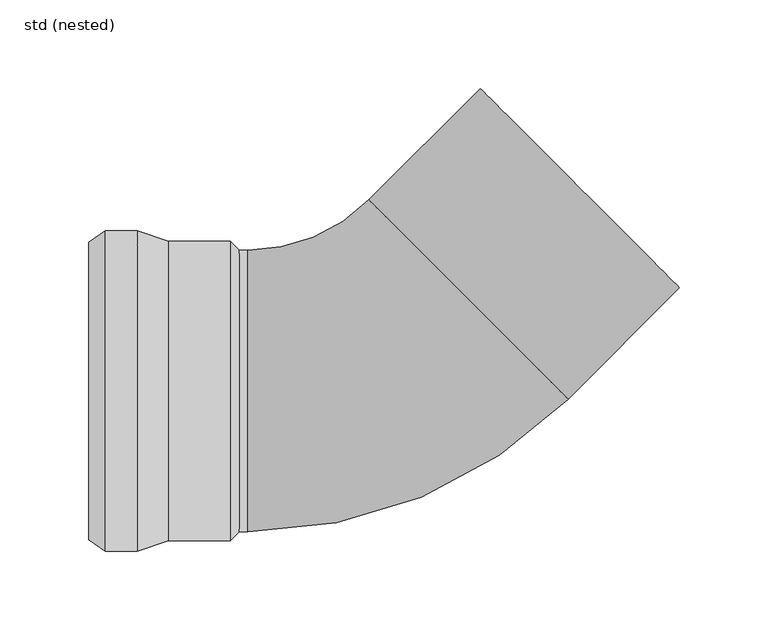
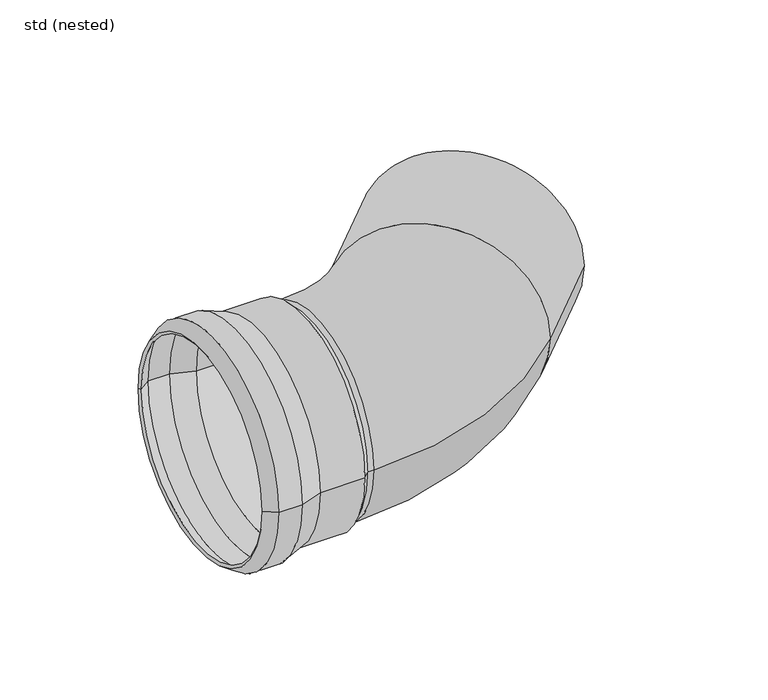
"""IFC4 building model written with IfcOpenShell, lengths in millimetres: pipe fitting geometry, ZZZ_do not use_PIF_ST_UN_GM-X pipe bend_ACO : std (nested)."""

from ifc_helpers import new_model, si_unit, point, frame, origin, place, context, project, spatial, polyline, circle_curve, ellipse_curve, trimmed, source, transform, mapped, element, save
from ifc_brep_helpers import plane_surface, cylinder_surface, revolved_surface, advanced_brep


def std_nested_fe48a173(model_context):
    return source(origin(), model_context, "Body", "AdvancedBrep", [
        advanced_brep(
        [(-135.5, 90.5, 0.0), (-135.5, -90.5, 0.0), (-153.5, -90.5, 0.0), (-153.5, 90.5, 0.0), (-118.0, 84.5, 0.0), (-118.0, -84.5, 0.0), (-163.0, -84.0, 0.0), (-163.0, 84.0, 0.0), (-83.0, 84.5, 0.0), (-83.0, -84.5, 0.0), (-78.0, 79.5, 0.0), (-78.0, -79.5, 0.0), (-83.0, 79.5, 0.0), (-83.0, -79.5, 0.0), (-118.4166667, 82.0, 0.0), (-118.4166667, -82.0, 0.0), (-83.0, -82.0, 0.0), (-83.0, 82.0, 0.0), (-135.9166667, 88.0, 0.0), (-135.9166667, -88.0, 0.0), (-152.7265906, 88.0, 0.0), (-152.7265906, -88.0, 0.0), (-161.5882902, 81.9367318, 0.0), (-161.5882902, -81.9367318, 0.0)],
        [
            (0, 1, circle_curve(frame((-135.5, 0.0, 0.0), z_axis=(-1.0, 0.0, 0.0), x_axis=(0.0, -1.0, 0.0)), 90.5)),
            (1, 2),
            (2, 3, circle_curve(frame((-153.5, 0.0, 0.0), z_axis=(1.0, 0.0, 0.0), x_axis=(0.0, -1.0, 0.0)), 90.5)),
            (3, 0),
            (1, 0, circle_curve(frame((-135.5, 0.0, 0.0), z_axis=(-1.0, 0.0, 0.0), x_axis=(0.0, -1.0, 0.0)), 90.5)),
            (3, 2, circle_curve(frame((-153.5, 0.0, 0.0), z_axis=(1.0, 0.0, 0.0), x_axis=(0.0, -1.0, 0.0)), 90.5)),
            (4, 5, circle_curve(frame((-118.0, 0.0, 0.0), z_axis=(-1.0, 0.0, 0.0), x_axis=(0.0, -1.0, 0.0)), 84.5)),
            (5, 1),
            (0, 4),
            (5, 4, circle_curve(frame((-118.0, 0.0, 0.0), z_axis=(-1.0, 0.0, 0.0), x_axis=(0.0, -1.0, 0.0)), 84.5)),
            (2, 6),
            (6, 7, circle_curve(frame((-163.0, 0.0, 0.0), z_axis=(1.0, 0.0, 0.0), x_axis=(0.0, -1.0, 0.0)), 84.0)),
            (7, 3),
            (7, 6, circle_curve(frame((-163.0, 0.0, 0.0), z_axis=(1.0, 0.0, 0.0), x_axis=(0.0, -1.0, 0.0)), 84.0)),
            (8, 9, circle_curve(frame((-83.0, 0.0, 0.0), z_axis=(-1.0, 0.0, 0.0), x_axis=(0.0, -1.0, 0.0)), 84.5)),
            (9, 5),
            (4, 8),
            (9, 8, circle_curve(frame((-83.0, 0.0, 0.0), z_axis=(-1.0, 0.0, 0.0), x_axis=(0.0, -1.0, 0.0)), 84.5)),
            (10, 11, circle_curve(frame((-78.0, 0.0, 0.0), z_axis=(-1.0, 0.0, 0.0), x_axis=(0.0, -1.0, 0.0)), 79.5)),
            (11, 9),
            (8, 10),
            (11, 10, circle_curve(frame((-78.0, 0.0, 0.0), z_axis=(-1.0, 0.0, 0.0), x_axis=(0.0, -1.0, 0.0)), 79.5)),
            (12, 13, circle_curve(frame((-83.0, 0.0, 0.0), z_axis=(-1.0, 0.0, 0.0), x_axis=(0.0, -1.0, 0.0)), 79.5)),
            (13, 11),
            (10, 12),
            (13, 12, circle_curve(frame((-83.0, 0.0, 0.0), z_axis=(-1.0, 0.0, 0.0), x_axis=(0.0, -1.0, 0.0)), 79.5)),
            (14, 15, circle_curve(frame((-118.4166667, 0.0, 0.0), z_axis=(-1.0, 0.0, 0.0), x_axis=(0.0, -1.0, 0.0)), 82.0)),
            (15, 16),
            (16, 17, circle_curve(frame((-83.0, 0.0, 0.0), z_axis=(1.0, 0.0, 0.0), x_axis=(0.0, -1.0, 0.0)), 82.0)),
            (17, 14),
            (15, 14, circle_curve(frame((-118.4166667, 0.0, 0.0), z_axis=(-1.0, 0.0, 0.0), x_axis=(0.0, -1.0, 0.0)), 82.0)),
            (17, 16, circle_curve(frame((-83.0, 0.0, 0.0), z_axis=(1.0, 0.0, 0.0), x_axis=(0.0, -1.0, 0.0)), 82.0)),
            (18, 19, circle_curve(frame((-135.9166667, 0.0, 0.0), z_axis=(-1.0, 0.0, 0.0), x_axis=(0.0, -1.0, 0.0)), 88.0)),
            (19, 15),
            (14, 18),
            (19, 18, circle_curve(frame((-135.9166667, 0.0, 0.0), z_axis=(-1.0, 0.0, 0.0), x_axis=(0.0, -1.0, 0.0)), 88.0)),
            (20, 21, circle_curve(frame((-152.7265906, 0.0, 0.0), z_axis=(-1.0, 0.0, 0.0), x_axis=(0.0, -1.0, 0.0)), 88.0)),
            (21, 19),
            (18, 20),
            (21, 20, circle_curve(frame((-152.7265906, 0.0, 0.0), z_axis=(-1.0, 0.0, 0.0), x_axis=(0.0, -1.0, 0.0)), 88.0)),
            (22, 23, circle_curve(frame((-161.5882902, 0.0, 0.0), z_axis=(-1.0, 0.0, 0.0), x_axis=(0.0, -1.0, 0.0)), 81.9367318)),
            (23, 21),
            (20, 22),
            (23, 22, circle_curve(frame((-161.5882902, 0.0, 0.0), z_axis=(-1.0, 0.0, 0.0), x_axis=(0.0, -1.0, 0.0)), 81.9367318)),
            (6, 23),
            (22, 7),
            (16, 13),
            (12, 17),
        ],
        [
            cylinder_surface(frame((-159.6444117, 0.0, 0.0), z_axis=(1.0, 0.0, 0.0), x_axis=(0.0, -1.0, 0.0)), 90.5),
            revolved_surface(polyline([(-135.5, -90.5, 0.0), (-118.0, -84.5, 0.0)]), (-159.6444117, 0.0, 0.0), (1.0, 0.0, 0.0)),
            revolved_surface(polyline([(-163.0, -84.0, 0.0), (-153.5, -90.5, 0.0)]), (-159.6444117, 0.0, 0.0), (1.0, 0.0, 0.0)),
            cylinder_surface(frame((-159.6444117, 0.0, 0.0), z_axis=(1.0, 0.0, 0.0), x_axis=(0.0, -1.0, 0.0)), 84.5),
            revolved_surface(polyline([(-83.0, -84.5, 0.0), (-78.0, -79.5, 0.0)]), (-159.6444117, 0.0, 0.0), (1.0, 0.0, 0.0)),
            revolved_surface(polyline([(-78.0, -79.5, 0.0), (-83.0, -79.5, 0.0)]), (-159.6444117, 0.0, 0.0), (1.0, 0.0, 0.0)),
            revolved_surface(polyline([(-83.0, -82.0, 0.0), (-118.4166667, -82.0, 0.0)]), (-159.6444117, 0.0, 0.0), (1.0, 0.0, 0.0)),
            revolved_surface(polyline([(-118.4166667, -82.0, 0.0), (-135.9166667, -88.0, 0.0)]), (-159.6444117, 0.0, 0.0), (1.0, 0.0, 0.0)),
            revolved_surface(polyline([(-135.9166667, -88.0, 0.0), (-152.7265906, -88.0, 0.0)]), (-159.6444117, 0.0, 0.0), (1.0, 0.0, 0.0)),
            revolved_surface(polyline([(-152.7265906, -88.0, 0.0), (-161.5882902, -81.9367318, 0.0)]), (-159.6444117, 0.0, 0.0), (1.0, 0.0, 0.0)),
            revolved_surface(polyline([(-161.5882902, -81.9367318, 0.0), (-163.0, -84.0, 0.0)]), (-159.6444117, 0.0, 0.0), (1.0, 0.0, 0.0)),
            plane_surface(frame((-83.0, 0.0, 0.0), z_axis=(-1.0, 0.0, 0.0), x_axis=(0.0, -1.0, 0.0))),
        ],
        [
            (0, [[1, 2, 3, 4]]),
            (0, [[5, -4, 6, -2]]),
            (1, [[7, 8, -1, 9]]),
            (1, [[10, -9, -5, -8]]),
            (2, [[-3, 11, 12, 13]]),
            (2, [[-6, -13, 14, -11]]),
            (3, [[15, 16, -7, 17]]),
            (3, [[18, -17, -10, -16]]),
            (4, [[19, 20, -15, 21]]),
            (4, [[22, -21, -18, -20]]),
            (5, [[23, 24, -19, 25]]),
            (5, [[26, -25, -22, -24]]),
            (6, [[27, 28, 29, 30]]),
            (6, [[31, -30, 32, -28]]),
            (7, [[33, 34, -27, 35]]),
            (7, [[36, -35, -31, -34]]),
            (8, [[37, 38, -33, 39]]),
            (8, [[40, -39, -36, -38]]),
            (9, [[41, 42, -37, 43]]),
            (9, [[44, -43, -40, -42]]),
            (10, [[-12, 45, -41, 46]]),
            (10, [[-14, -46, -44, -45]]),
            (11, [[-29, 47, -23, 48]]),
            (11, [[-32, -48, -26, -47]]),
        ],
    ),
        advanced_brep(
        [(-4.5961941, 107.8337841, 0.0), (-73.0, 79.5, 0.0), (-73.0, -79.5, 0.0), (107.8337841, -4.5961941, 0.0), (51.618795, 51.618795, 79.5), (51.618795, 51.618795, -79.5), (-83.0, -79.5, 0.0), (-83.0, 79.5, 0.0), (170.7662877, 58.3363094, 0.0), (58.3363094, 170.7662877, 0.0)],
        [
            (0, 1, circle_curve(frame((-73.0, 176.2375901, 0.0), z_axis=(0.0, 0.0, -1.0), x_axis=(0.0, -1.0, 0.0)), 96.7375901)),
            (1, 2, circle_curve(frame((-73.0, 0.0, 0.0), z_axis=(1.0, 0.0, 0.0), x_axis=(0.0, 1.0, 0.0)), 79.5)),
            (2, 3, circle_curve(frame((-73.0, 176.2375901, 0.0), z_axis=(0.0, 0.0, 1.0), x_axis=(0.0, -1.0, 0.0)), 255.7375901)),
            (3, 4, circle_curve(frame((51.618795, 51.618795, 0.0), z_axis=(-0.7071067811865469, -0.7071067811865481, 0.0), x_axis=(-0.7071067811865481, 0.7071067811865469, 0.0)), 79.5)),
            (4, 0, circle_curve(frame((51.618795, 51.618795, 0.0), z_axis=(-0.7071067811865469, -0.7071067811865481, 0.0), x_axis=(-0.7071067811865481, 0.7071067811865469, 0.0)), 79.5)),
            (0, 5, circle_curve(frame((51.618795, 51.618795, 0.0), z_axis=(-0.7071067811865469, -0.7071067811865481, 0.0), x_axis=(-0.7071067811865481, 0.7071067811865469, 0.0)), 79.5)),
            (5, 3, circle_curve(frame((51.618795, 51.618795, 0.0), z_axis=(-0.7071067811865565, -0.7071067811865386, 0.0), x_axis=(-0.7071067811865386, 0.7071067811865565, 0.0)), 79.5)),
            (2, 1, circle_curve(frame((-73.0, 0.0, 0.0), z_axis=(1.0, 0.0, 0.0), x_axis=(0.0, 1.0, 0.0)), 79.5)),
            (6, 7, circle_curve(frame((-83.0, 0.0, 0.0), z_axis=(-1.0, 0.0, 0.0), x_axis=(0.0, 1.0, 0.0)), 79.5)),
            (7, 6, circle_curve(frame((-83.0, 0.0, 0.0), z_axis=(-1.0, 0.0, 0.0), x_axis=(0.0, 1.0, 0.0)), 79.5)),
            (7, 1),
            (2, 6),
            (8, 9, circle_curve(frame((114.5512986, 114.5512986, 0.0), z_axis=(0.7071067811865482, 0.7071067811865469, 0.0), x_axis=(-0.7071067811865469, 0.7071067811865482, 0.0)), 79.5)),
            (9, 8, circle_curve(frame((114.5512986, 114.5512986, 0.0), z_axis=(0.7071067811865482, 0.7071067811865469, 0.0), x_axis=(-0.7071067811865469, 0.7071067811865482, 0.0)), 79.5)),
            (9, 0),
            (3, 8),
        ],
        [
            revolved_surface(trimmed(ellipse_curve(frame((-73.0, 0.0, 0.0), z_axis=(-1.0, 0.0, 0.0), x_axis=(0.0, 1.0, 0.0)), 79.5, 79.5), [point((-73.0, -79.5, 0.0))], [point((-73.0, 79.5, 0.0))], True, "CARTESIAN"), (-73.0, 176.2375901, 0.0), (0.0, 0.0, 1.0)),
            revolved_surface(trimmed(ellipse_curve(frame((-73.0, 0.0, 0.0), z_axis=(-1.0, 0.0, 0.0), x_axis=(0.0, 1.0, 0.0)), 79.5, 79.5), [point((-73.0, 79.5, 0.0))], [point((-73.0, -79.5, 0.0))], True, "CARTESIAN"), (-73.0, 176.2375901, 0.0), (0.0, 0.0, 1.0)),
            plane_surface(frame((-83.0, 79.5, 0.0), z_axis=(-1.0, 0.0, 0.0), x_axis=(0.0, 0.0, -1.0))),
            cylinder_surface(frame((-83.0, 0.0, 0.0), z_axis=(1.0, 0.0, 0.0), x_axis=(0.0, 1.0, 0.0)), 79.5),
            plane_surface(frame((114.5512986, 114.5512986, 0.0), z_axis=(0.7071067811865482, 0.7071067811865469, 0.0), x_axis=(0.0, 0.0, 1.0))),
            cylinder_surface(frame((51.618795, 51.618795, 0.0), z_axis=(-0.7071067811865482, -0.7071067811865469, 0.0), x_axis=(-0.7071067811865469, 0.7071067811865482, 0.0)), 79.5),
        ],
        [
            (0, [[1, 2, 3, 4, 5]]),
            (1, [[-1, 6, 7, -3, 8]]),
            (2, [[9, 10]]),
            (3, [[-10, 11, -8, 12]]),
            (3, [[-9, -12, -2, -11]]),
            (4, [[13, 14]]),
            (5, [[-14, 15, -5, -4, 16]]),
            (5, [[-13, -16, -7, -6, -15]]),
        ],
    ),
    ])


if __name__ == "__main__":
    model = new_model("IFC4")
    model_context = context("Model", 3, world=origin())
    ifc_project = project(units=[si_unit("LENGTHUNIT", "METRE", prefix="MILLI")], contexts=[model_context])
    site = spatial("IfcSite", under=ifc_project)
    building = spatial("IfcBuilding", under=site)
    placement = place(None, origin())
    std_nested_shape = std_nested_fe48a173(model_context)
    element("IfcPipeFitting", 1, ObjectType="ZZZ_do not use_PIF_ST_UN_GM-X pipe bend_ACO : std (nested)", at=placement, inside=building, context=model_context, shape_type="MappedRepresentation", body=[
        mapped(std_nested_shape, transform((0.0, 0.0, 0.0), x_axis=(1.0, 0.0, 0.0), y_axis=(0.0, 1.0, 0.0), z_axis=(0.0, 0.0, 1.0))),
    ])
    save(model, "model.ifc")
